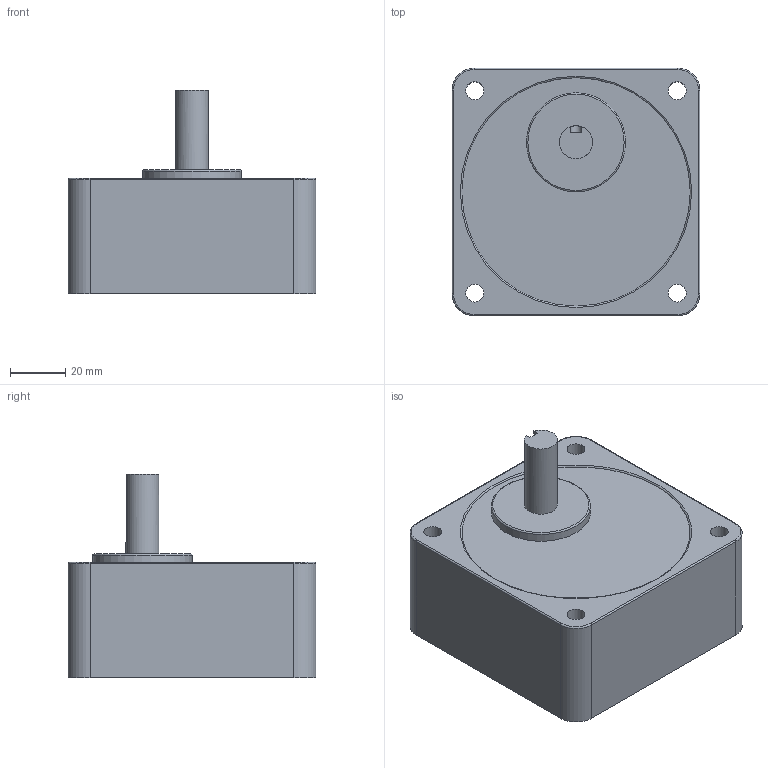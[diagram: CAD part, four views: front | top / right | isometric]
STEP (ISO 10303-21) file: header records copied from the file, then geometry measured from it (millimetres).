
FILE_DESCRIPTION((''),'2;1');
FILE_NAME('E:\2공장-도면\3D\표준형 3D(민규)\step file\감속기\K9G(1~18)B(C).stp','2014-11-13T15:47:21',('AHN'),(''),'Autodesk Inventor 2012','Autodesk Inventor 2012','');
FILE_SCHEMA(('CONFIG_CONTROL_DESIGN'));
Length unit declared in the file: millimetre
Products named in the file (1): K9G(1~18)B(C)
Bounding box: 90 x 90 x 74 mm (x, y, z)
Volume: 336201.2 mm3; surface area: 35356 mm2
Topology: 1 solids, 1 shells, 33 faces, 76 edges, 48 vertices
Faces by surface type: cylinder 15, plane 12, torus 6
Full cylindrical faces by diameter (mm): 6.5 x4, 12 x1, 36 x1
Entity records: 949 total; most frequent: DIRECTION 169, CARTESIAN_POINT 166, ORIENTED_EDGE 134, AXIS2_PLACEMENT_3D 70, EDGE_CURVE 67, EDGE_LOOP 52, VERTEX_POINT 47, CIRCLE 36
